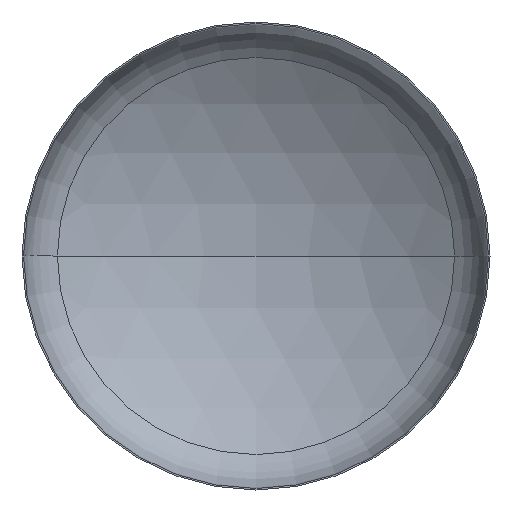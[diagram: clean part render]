
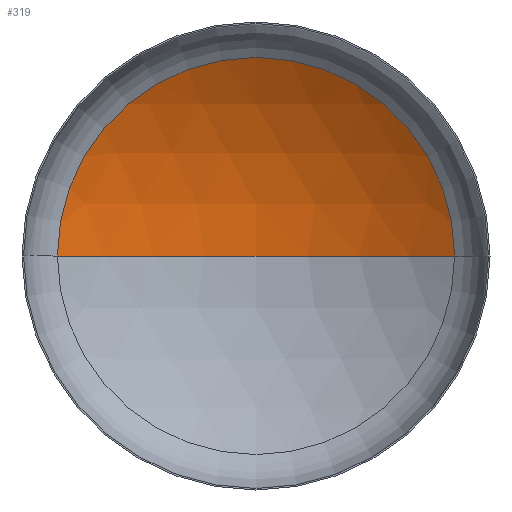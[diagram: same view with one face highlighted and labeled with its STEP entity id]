
A CAD part, front view. The second image highlights one B-rep face of the part: STEP entity #319.
In plain terms, the highlighted spherical face has radius 5600 mm.
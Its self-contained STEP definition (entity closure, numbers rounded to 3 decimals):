
#1 = DIRECTION ( 'NONE',  ( 0., 0., -1. ) ) ;
#10 = CARTESIAN_POINT ( 'NONE',  ( 0., -3762.074, 0. ) ) ;
#11 = CARTESIAN_POINT ( 'NONE',  ( 0., 985.628, 0. ) ) ;
#31 = AXIS2_PLACEMENT_3D ( 'NONE', #72, #139, #140 ) ;
#44 = VERTEX_POINT ( 'NONE', #242 ) ;
#45 = ORIENTED_EDGE ( 'NONE', *, *, #199, .T. ) ;
#56 = VERTEX_POINT ( 'NONE', #244 ) ;
#72 = CARTESIAN_POINT ( 'NONE',  ( 0., -3762.074, 0. ) ) ;
#73 = CIRCLE ( 'NONE', #138, 2969.735 ) ;
#79 = ORIENTED_EDGE ( 'NONE', *, *, #202, .T. ) ;
#100 = EDGE_LOOP ( 'NONE', ( #110, #79, #45 ) ) ;
#110 = ORIENTED_EDGE ( 'NONE', *, *, #208, .F. ) ;
#112 = VERTEX_POINT ( 'NONE', #230 ) ;
#120 = AXIS2_PLACEMENT_3D ( 'NONE', #131, #168, #345 ) ;
#127 = AXIS2_PLACEMENT_3D ( 'NONE', #10, #1, #320 ) ;
#131 = CARTESIAN_POINT ( 'NONE',  ( 0., -3762.074, 0. ) ) ;
#138 = AXIS2_PLACEMENT_3D ( 'NONE', #11, #409, #408 ) ;
#139 = DIRECTION ( 'NONE',  ( 0., 0., -1. ) ) ;
#140 = DIRECTION ( 'NONE',  ( -1., 0., 0. ) ) ;
#168 = DIRECTION ( 'NONE',  ( 0., 0., 1. ) ) ;
#184 = CIRCLE ( 'NONE', #120, 5600. ) ;
#199 = EDGE_CURVE ( 'NONE', #56, #112, #73, .T. ) ;
#202 = EDGE_CURVE ( 'NONE', #44, #56, #322, .T. ) ;
#208 = EDGE_CURVE ( 'NONE', #44, #112, #184, .T. ) ;
#230 = CARTESIAN_POINT ( 'NONE',  ( -2969.735, 985.628, 0. ) ) ;
#242 = CARTESIAN_POINT ( 'NONE',  ( 0., 1837.926, 0. ) ) ;
#244 = CARTESIAN_POINT ( 'NONE',  ( 2969.735, 985.628, 0. ) ) ;
#319 = ADVANCED_FACE ( 'NONE', ( #349 ), #357, .F. ) ;
#320 = DIRECTION ( 'NONE',  ( -1., 0., 0. ) ) ;
#322 = CIRCLE ( 'NONE', #127, 5600. ) ;
#345 = DIRECTION ( 'NONE',  ( 1., 0., 0. ) ) ;
#349 = FACE_OUTER_BOUND ( 'NONE', #100, .T. ) ;
#357 = SPHERICAL_SURFACE ( 'NONE', #31, 5600. ) ;
#408 = DIRECTION ( 'NONE',  ( 1., 0., 0. ) ) ;
#409 = DIRECTION ( 'NONE',  ( 0., -1., 0. ) ) ;
